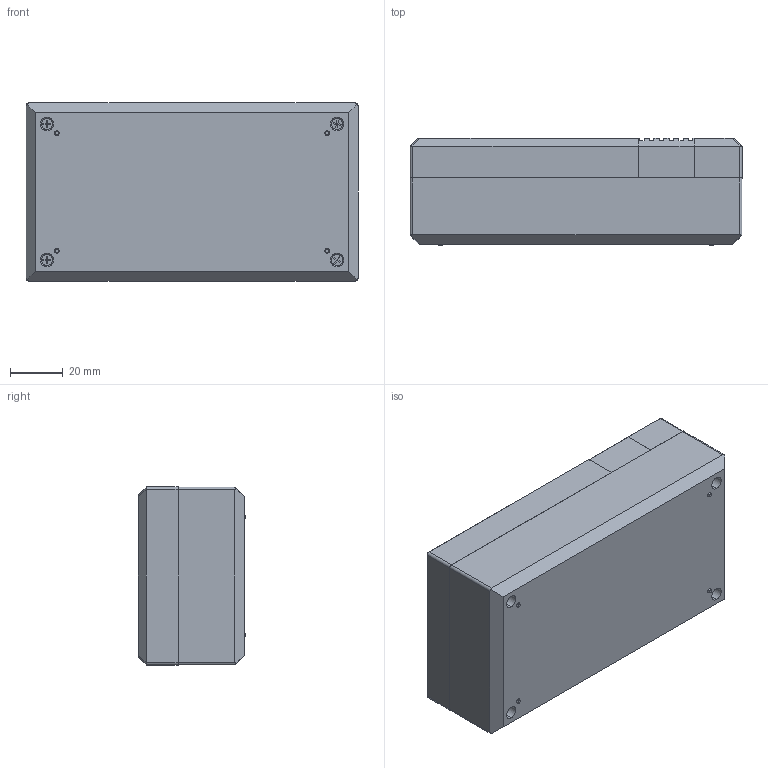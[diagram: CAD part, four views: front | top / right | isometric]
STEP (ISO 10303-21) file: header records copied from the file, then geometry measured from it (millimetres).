
FILE_DESCRIPTION (( 'STEP AP214' ), '1' );
FILE_NAME ('Conjunt PP48.STEP', '2019-10-10T17:15:24', ( 'aaa' ), ( '' ), 'SwSTEP 2.0', 'SolidWorks 2014', '' );
FILE_SCHEMA (( 'AUTOMOTIVE_DESIGN' ));
Length unit declared in the file: millimetre
Products named in the file (6): Cuerpo PP48; Conjunt PP48; Tapeta PP48; Cargol 2,1x6,5 PP48; Cargol 2,2x9,3 PP48; Tapa PP48
Assembly tree (11 placements, depth 2):
  Conjunt PP48
    Cuerpo PP48
    Tapa PP48
    Cargol 2,2x9,3 PP48  x4
    Cargol 2,1x6,5 PP48  x4
    Tapeta PP48
Bounding box: 125.5 x 40.53 x 67.3 mm (x, y, z)
Volume: 98836.2 mm3; surface area: 71895.7 mm2
Topology: 11 solids, 11 shells, 1097 faces, 2579 edges, 1524 vertices
Faces by surface type: cone 544, plane 395, cylinder 150, torus 8
Entity records: 18345 total; most frequent: CARTESIAN_POINT 3296, DIRECTION 3147, ORIENTED_EDGE 3062, EDGE_CURVE 1531, AXIS2_PLACEMENT_3D 1057, LINE 1033, VECTOR 1033, VERTEX_POINT 966
